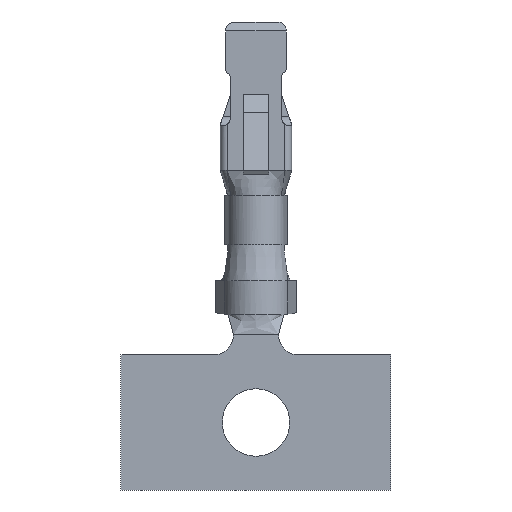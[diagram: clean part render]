
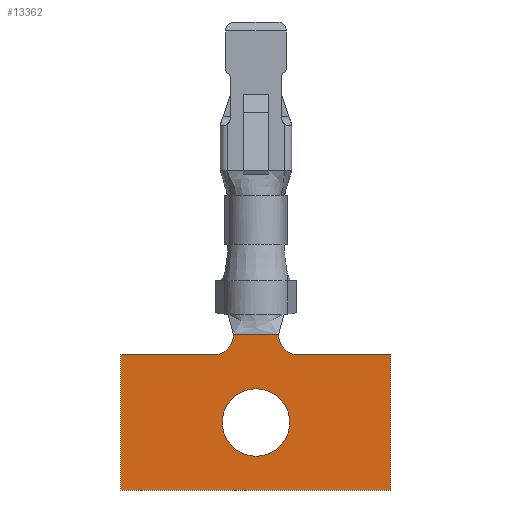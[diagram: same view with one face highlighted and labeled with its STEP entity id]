
A CAD part, front view. The second image highlights one B-rep face of the part: STEP entity #13362.
In plain terms, the highlighted planar face has unit normal (0, -1, 0).
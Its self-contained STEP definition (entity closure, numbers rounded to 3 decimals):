
#74 = DIRECTION ( 'NONE',  ( 0., -1., 0. ) ) ;
#267 = CIRCLE ( 'NONE', #4915, 0.45 ) ;
#372 = CARTESIAN_POINT ( 'NONE',  ( -3., 0., -0.65 ) ) ;
#429 = ORIENTED_EDGE ( 'NONE', *, *, #5057, .F. ) ;
#599 = VECTOR ( 'NONE', #9024, 1000. ) ;
#719 = VERTEX_POINT ( 'NONE', #1964 ) ;
#737 = DIRECTION ( 'NONE',  ( 0., -1., 0. ) ) ;
#841 = PLANE ( 'NONE',  #15417 ) ;
#1087 = ORIENTED_EDGE ( 'NONE', *, *, #17835, .F. ) ;
#1207 = AXIS2_PLACEMENT_3D ( 'NONE', #2988, #1442, #13751 ) ;
#1442 = DIRECTION ( 'NONE',  ( 0., -1., 0. ) ) ;
#1859 = VECTOR ( 'NONE', #3043, 1000. ) ;
#1951 = CARTESIAN_POINT ( 'NONE',  ( -3., 0., -3.65 ) ) ;
#1964 = CARTESIAN_POINT ( 'NONE',  ( -0.75, 0., -2.15 ) ) ;
#2174 = CARTESIAN_POINT ( 'NONE',  ( 3., 0., -3.65 ) ) ;
#2302 = AXIS2_PLACEMENT_3D ( 'NONE', #2465, #74, #13919 ) ;
#2366 = ORIENTED_EDGE ( 'NONE', *, *, #14751, .F. ) ;
#2391 = DIRECTION ( 'NONE',  ( 0., 1., 0. ) ) ;
#2461 = LINE ( 'NONE', #14866, #599 ) ;
#2465 = CARTESIAN_POINT ( 'NONE',  ( 0., 0., -2.15 ) ) ;
#2691 = EDGE_LOOP ( 'NONE', ( #9485, #2366 ) ) ;
#2821 = ORIENTED_EDGE ( 'NONE', *, *, #14385, .F. ) ;
#2988 = CARTESIAN_POINT ( 'NONE',  ( 0.95, 0., -0.2 ) ) ;
#3043 = DIRECTION ( 'NONE',  ( 1., 0., 0. ) ) ;
#3491 = FACE_BOUND ( 'NONE', #2691, .T. ) ;
#3542 = LINE ( 'NONE', #2174, #6194 ) ;
#3592 = CARTESIAN_POINT ( 'NONE',  ( 0.95, 0., -0.65 ) ) ;
#3753 = FACE_OUTER_BOUND ( 'NONE', #16170, .T. ) ;
#4637 = CIRCLE ( 'NONE', #2302, 0.75 ) ;
#4733 = CARTESIAN_POINT ( 'NONE',  ( -0.95, 0., -0.65 ) ) ;
#4772 = CARTESIAN_POINT ( 'NONE',  ( 0.95, 0., -0.65 ) ) ;
#4915 = AXIS2_PLACEMENT_3D ( 'NONE', #13425, #14976, #16264 ) ;
#5057 = EDGE_CURVE ( 'NONE', #11949, #10929, #15678, .T. ) ;
#5847 = CARTESIAN_POINT ( 'NONE',  ( -0.5, 0., -0.2 ) ) ;
#5863 = EDGE_CURVE ( 'NONE', #17873, #7339, #17360, .T. ) ;
#5878 = EDGE_CURVE ( 'NONE', #8744, #11949, #14434, .T. ) ;
#5889 = CARTESIAN_POINT ( 'NONE',  ( 3., 0., -3.65 ) ) ;
#6194 = VECTOR ( 'NONE', #7729, 1000. ) ;
#7304 = VERTEX_POINT ( 'NONE', #5889 ) ;
#7339 = VERTEX_POINT ( 'NONE', #16281 ) ;
#7501 = DIRECTION ( 'NONE',  ( 0., 0., 1. ) ) ;
#7729 = DIRECTION ( 'NONE',  ( -1., 0., 0. ) ) ;
#8744 = VERTEX_POINT ( 'NONE', #16801 ) ;
#9024 = DIRECTION ( 'NONE',  ( 0., 0., -1. ) ) ;
#9129 = CARTESIAN_POINT ( 'NONE',  ( 0., 0., 0. ) ) ;
#9360 = CARTESIAN_POINT ( 'NONE',  ( 0.75, 0., -2.15 ) ) ;
#9485 = ORIENTED_EDGE ( 'NONE', *, *, #15897, .F. ) ;
#10041 = ORIENTED_EDGE ( 'NONE', *, *, #14707, .F. ) ;
#10251 = EDGE_CURVE ( 'NONE', #7304, #8744, #3542, .T. ) ;
#10510 = CIRCLE ( 'NONE', #1207, 0.45 ) ;
#10929 = VERTEX_POINT ( 'NONE', #4733 ) ;
#11327 = VECTOR ( 'NONE', #11989, 1000. ) ;
#11651 = DIRECTION ( 'NONE',  ( 1., 0., 0. ) ) ;
#11732 = VECTOR ( 'NONE', #11651, 1000. ) ;
#11949 = VERTEX_POINT ( 'NONE', #372 ) ;
#11989 = DIRECTION ( 'NONE',  ( 1., 0., 0. ) ) ;
#12165 = VERTEX_POINT ( 'NONE', #9360 ) ;
#12212 = CIRCLE ( 'NONE', #13103, 0.75 ) ;
#12933 = CARTESIAN_POINT ( 'NONE',  ( -3., 0., -0.65 ) ) ;
#13103 = AXIS2_PLACEMENT_3D ( 'NONE', #16237, #737, #14769 ) ;
#13362 = ADVANCED_FACE ( 'NONE', ( #3753, #3491 ), #841, .F. ) ;
#13425 = CARTESIAN_POINT ( 'NONE',  ( -0.95, 0., -0.2 ) ) ;
#13529 = ORIENTED_EDGE ( 'NONE', *, *, #5863, .F. ) ;
#13751 = DIRECTION ( 'NONE',  ( -1., 0., 0. ) ) ;
#13919 = DIRECTION ( 'NONE',  ( -1., 0., 0. ) ) ;
#14385 = EDGE_CURVE ( 'NONE', #16085, #16582, #16026, .T. ) ;
#14434 = LINE ( 'NONE', #1951, #17305 ) ;
#14707 = EDGE_CURVE ( 'NONE', #7339, #7304, #2461, .T. ) ;
#14751 = EDGE_CURVE ( 'NONE', #12165, #719, #12212, .T. ) ;
#14769 = DIRECTION ( 'NONE',  ( 1., 0., 0. ) ) ;
#14866 = CARTESIAN_POINT ( 'NONE',  ( 3., 0., -0.65 ) ) ;
#14976 = DIRECTION ( 'NONE',  ( 0., -1., 0. ) ) ;
#15417 = AXIS2_PLACEMENT_3D ( 'NONE', #9129, #2391, #17444 ) ;
#15678 = LINE ( 'NONE', #12933, #11732 ) ;
#15690 = EDGE_CURVE ( 'NONE', #10929, #16085, #267, .T. ) ;
#15897 = EDGE_CURVE ( 'NONE', #719, #12165, #4637, .T. ) ;
#16026 = LINE ( 'NONE', #17568, #11327 ) ;
#16085 = VERTEX_POINT ( 'NONE', #5847 ) ;
#16170 = EDGE_LOOP ( 'NONE', ( #1087, #2821, #17791, #429, #17705, #17215, #10041, #13529 ) ) ;
#16237 = CARTESIAN_POINT ( 'NONE',  ( 0., 0., -2.15 ) ) ;
#16264 = DIRECTION ( 'NONE',  ( 0., 0., -1. ) ) ;
#16281 = CARTESIAN_POINT ( 'NONE',  ( 3., 0., -0.65 ) ) ;
#16582 = VERTEX_POINT ( 'NONE', #17656 ) ;
#16801 = CARTESIAN_POINT ( 'NONE',  ( -3., 0., -3.65 ) ) ;
#17215 = ORIENTED_EDGE ( 'NONE', *, *, #10251, .F. ) ;
#17305 = VECTOR ( 'NONE', #7501, 1000. ) ;
#17360 = LINE ( 'NONE', #4772, #1859 ) ;
#17444 = DIRECTION ( 'NONE',  ( 1., 0., 0. ) ) ;
#17568 = CARTESIAN_POINT ( 'NONE',  ( -0.5, 0., -0.2 ) ) ;
#17656 = CARTESIAN_POINT ( 'NONE',  ( 0.5, 0., -0.2 ) ) ;
#17705 = ORIENTED_EDGE ( 'NONE', *, *, #5878, .F. ) ;
#17791 = ORIENTED_EDGE ( 'NONE', *, *, #15690, .F. ) ;
#17835 = EDGE_CURVE ( 'NONE', #16582, #17873, #10510, .T. ) ;
#17873 = VERTEX_POINT ( 'NONE', #3592 ) ;
